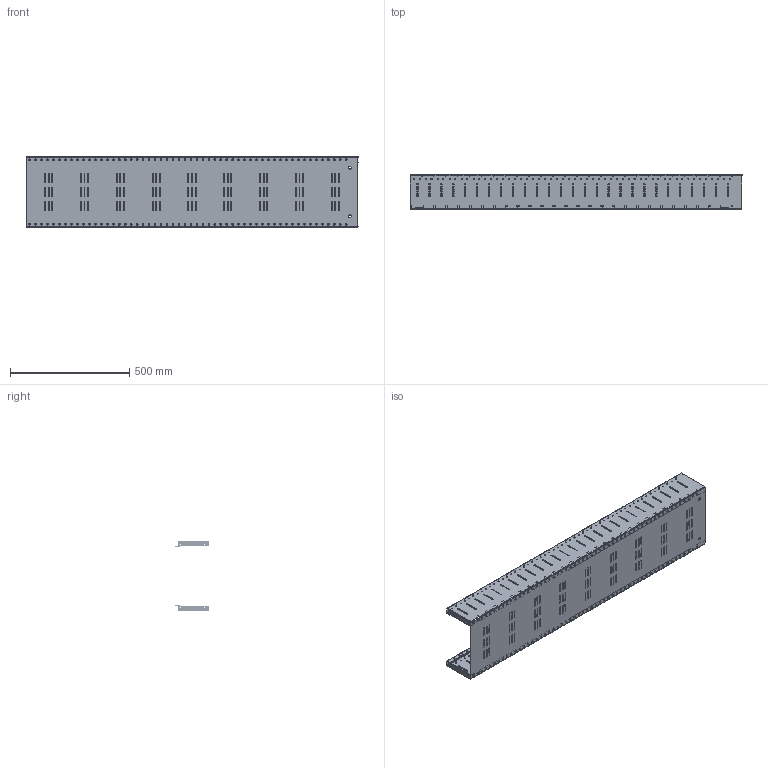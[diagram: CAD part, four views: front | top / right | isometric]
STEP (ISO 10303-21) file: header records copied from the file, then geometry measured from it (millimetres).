
FILE_DESCRIPTION(('CAx-IF Rec.Pracs.---Model Styling and Organization---1.2---2011-12-15','CAx-IF Rec.Pracs.---Geometric and Assembly Validation Properties---4.1---2014-06-16','CAx-IF Rec.Pracs.---PMI Polyline Presentation---2.0---2013-05-24'),'2;1');
FILE_NAME('R5MRGBS27M.stp','2021-05-05T12:56:57+03:00',(''),(''),'STEP Interface 4.4 by CT CoreTechnologie','3D_Evolution4.4 by CT CoreTechnologie','');
FILE_SCHEMA(('AUTOMOTIVE_DESIGN { 1 0 10303 214 1 1 1 1 }'));
Length unit declared in the file: millimetre
Products named in the file (4): R5MRGBS27M; RB.1394.00.00.0_-01; RB.1393.00.00.0_-00; RB.1393.00.00.0_-01
Assembly tree (3 placements, depth 2):
  R5MRGBS27M
    RB.1394.00.00.0_-01
    RB.1393.00.00.0_-00
    RB.1393.00.00.0_-01
Bounding box: 1390 x 143 x 295 mm (x, y, z)
Surface area: 1911371.2 mm2 (no closed solid volume)
Topology: 0 solids, 3 shells, 3425 faces, 11119 edges, 7304 vertices
Faces by surface type: cylinder 1956, plane 1469
Entity records: 127312 total; most frequent: ORIENTED_EDGE 22238, DIRECTION 21889, CARTESIAN_POINT 21852, EDGE_CURVE 11119, AXIS2_PLACEMENT_3D 7341, VERTEX_POINT 7304, VECTOR 7207, LINE 7207
